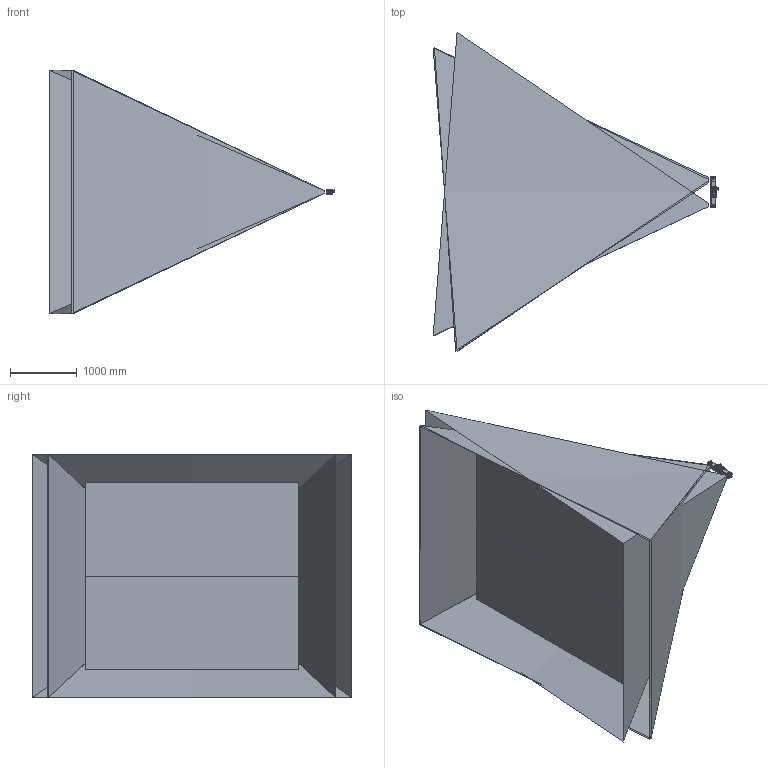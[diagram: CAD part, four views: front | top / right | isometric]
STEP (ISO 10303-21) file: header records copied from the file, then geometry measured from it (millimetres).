
FILE_DESCRIPTION((''),'2;1');
FILE_NAME('MV-DLS1300P--0001_ASM','2026-01-06T20:07:47',('guotianbo'),(''),'CREO PARAMETRIC BY PTC INC, 2020044','CREO PARAMETRIC BY PTC INC, 2020044','');
FILE_SCHEMA(('AUTOMOTIVE_DESIGN { 1 0 10303 214 1 1 1 1 }'));
Products named in the file (1): MV-DLS1300P--0001_ASM
Bounding box: 4271.32 x 4762.25 x 3637.38 mm (x, y, z)
Surface area: 139700583.6 mm2 (no closed solid volume)
Topology: 0 solids, 207 shells, 3673 faces, 12477 edges, 8636 vertices
Faces by surface type: plane 1536, cylinder 1306, cone 422, torus 243, bspline 88, extrusion 40, sphere 38
Entity records: 263751 total; most frequent: CARTESIAN_POINT 150477, DIRECTION 21315, ORIENTED_EDGE 20186, EDGE_CURVE 12415, VERTEX_POINT 8636, AXIS2_PLACEMENT_3D 7579, VECTOR 6157, LINE 6117
